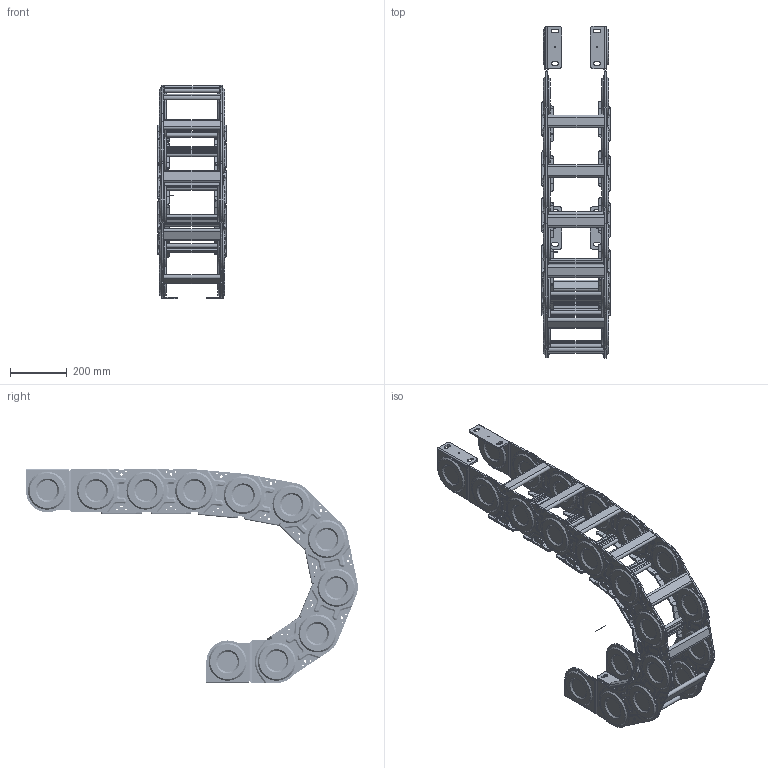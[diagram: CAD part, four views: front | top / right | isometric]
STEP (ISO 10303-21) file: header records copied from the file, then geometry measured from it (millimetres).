
FILE_DESCRIPTION((''),'2;1');
FILE_NAME('C:\Uebbing\TRACE PARTS\SLE\SLE 628\SLE 628 vereinfacht.stp','2013-05-29T09:34:35',('Uebbing'),(''),'Autodesk Inventor 10','Autodesk Inventor 10','');
FILE_SCHEMA(('AUTOMOTIVE_DESIGN { 1 0 10303 214 1 1 1 1 }'));
Length unit declared in the file: millimetre
Products named in the file (5): SLE 628 vereinfacht; Achse; SLE 628 Glied vereinfacht; SLE 620 Anschluss N einfach vereinfacht; SLE 620 Anschluss N doppelt vereinfacht
Assembly tree (11 placements, depth 2):
  SLE 628 vereinfacht
    Achse
    SLE 628 Glied vereinfacht  x8
    SLE 620 Anschluss N einfach vereinfacht
    SLE 620 Anschluss N doppelt vereinfacht
Bounding box: 240 x 1169.85 x 754.36 mm (x, y, z)
Volume: 9985429.8 mm3; surface area: 3702702.5 mm2
Topology: 16 solids, 16 shells, 4229 faces, 10812 edges, 6639 vertices
Faces by surface type: plane 1502, cylinder 1143, cone 800, bspline 488, torus 232, sphere 64
Full cylindrical faces by diameter (mm): 1 x1, 5 x4, 5.5 x32, 6.3 x64, 9 x32, 71 x44, 134 x44
Entity records: 24645 total; most frequent: CARTESIAN_POINT 4969, DIRECTION 4340, ORIENTED_EDGE 3860, EDGE_CURVE 1930, AXIS2_PLACEMENT_3D 1650, VERTEX_POINT 1252, VECTOR 1040, LINE 1040
